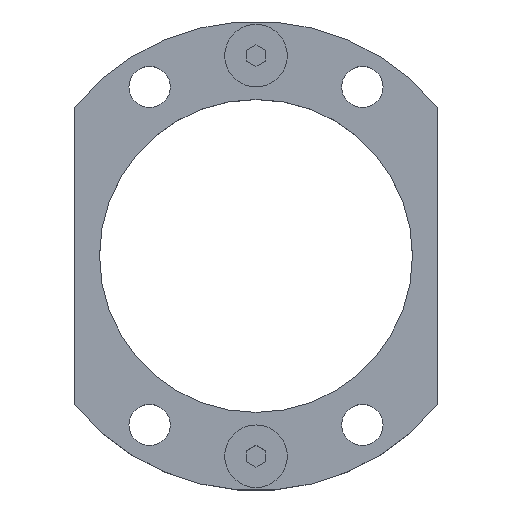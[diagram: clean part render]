
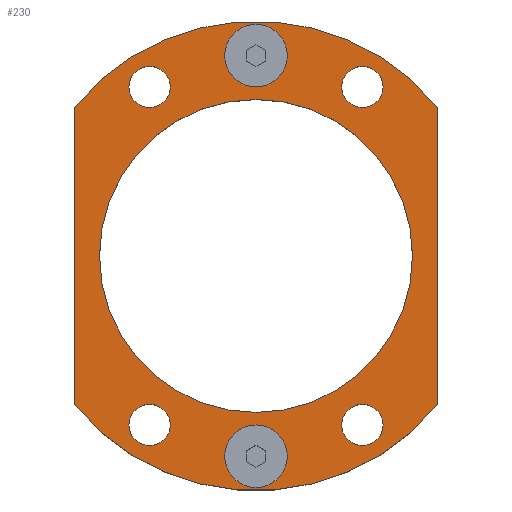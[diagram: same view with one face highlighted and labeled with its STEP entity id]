
A CAD part, top view. The second image highlights one B-rep face of the part: STEP entity #230.
In plain terms, the highlighted planar face has unit normal (0, 0, 1).
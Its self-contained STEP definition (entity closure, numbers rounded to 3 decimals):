
#143=FACE_BOUND('',#445,.T.);
#144=FACE_BOUND('',#446,.T.);
#145=FACE_BOUND('',#447,.T.);
#146=FACE_BOUND('',#448,.T.);
#147=FACE_BOUND('',#449,.T.);
#148=FACE_BOUND('',#450,.T.);
#149=FACE_BOUND('',#451,.T.);
#150=FACE_BOUND('',#452,.T.);
#164=PLANE('',#1603);
#230=ADVANCED_FACE('',(#143,#144,#145,#146,#147,#148,#149,#150),#164,.T.);
#445=EDGE_LOOP('',(#809,#810,#811,#812));
#446=EDGE_LOOP('',(#813,#814));
#447=EDGE_LOOP('',(#815,#816));
#448=EDGE_LOOP('',(#817,#818));
#449=EDGE_LOOP('',(#819,#820));
#450=EDGE_LOOP('',(#821,#822));
#451=EDGE_LOOP('',(#823,#824));
#452=EDGE_LOOP('',(#825,#826));
#524=CIRCLE('',#1540,37.5);
#526=CIRCLE('',#1544,37.5);
#528=CIRCLE('',#1548,3.3);
#530=CIRCLE('',#1551,3.3);
#532=CIRCLE('',#1554,3.3);
#534=CIRCLE('',#1557,3.3);
#536=CIRCLE('',#1560,3.3);
#538=CIRCLE('',#1563,3.3);
#540=CIRCLE('',#1566,3.3);
#542=CIRCLE('',#1569,3.3);
#547=CIRCLE('',#1577,5.);
#548=CIRCLE('',#1579,5.);
#550=CIRCLE('',#1582,25.);
#552=CIRCLE('',#1585,25.);
#561=CIRCLE('',#1601,5.);
#562=CIRCLE('',#1602,5.);
#809=ORIENTED_EDGE('',*,*,#1149,.T.);
#810=ORIENTED_EDGE('',*,*,#1158,.T.);
#811=ORIENTED_EDGE('',*,*,#1155,.T.);
#812=ORIENTED_EDGE('',*,*,#1152,.T.);
#813=ORIENTED_EDGE('',*,*,#1211,.F.);
#814=ORIENTED_EDGE('',*,*,#1212,.F.);
#815=ORIENTED_EDGE('',*,*,#1192,.F.);
#816=ORIENTED_EDGE('',*,*,#1190,.F.);
#817=ORIENTED_EDGE('',*,*,#1161,.T.);
#818=ORIENTED_EDGE('',*,*,#1164,.T.);
#819=ORIENTED_EDGE('',*,*,#1167,.T.);
#820=ORIENTED_EDGE('',*,*,#1170,.T.);
#821=ORIENTED_EDGE('',*,*,#1173,.T.);
#822=ORIENTED_EDGE('',*,*,#1176,.T.);
#823=ORIENTED_EDGE('',*,*,#1179,.T.);
#824=ORIENTED_EDGE('',*,*,#1182,.T.);
#825=ORIENTED_EDGE('',*,*,#1195,.T.);
#826=ORIENTED_EDGE('',*,*,#1198,.T.);
#1005=VERTEX_POINT('',#2226);
#1006=VERTEX_POINT('',#2228);
#1008=VERTEX_POINT('',#2234);
#1010=VERTEX_POINT('',#2240);
#1013=VERTEX_POINT('',#2250);
#1014=VERTEX_POINT('',#2252);
#1017=VERTEX_POINT('',#2262);
#1018=VERTEX_POINT('',#2264);
#1021=VERTEX_POINT('',#2274);
#1022=VERTEX_POINT('',#2276);
#1025=VERTEX_POINT('',#2286);
#1026=VERTEX_POINT('',#2288);
#1031=VERTEX_POINT('',#2307);
#1032=VERTEX_POINT('',#2309);
#1035=VERTEX_POINT('',#2318);
#1036=VERTEX_POINT('',#2320);
#1045=VERTEX_POINT('',#2353);
#1046=VERTEX_POINT('',#2354);
#1149=EDGE_CURVE('',#1006,#1005,#524,.T.);
#1152=EDGE_CURVE('',#1008,#1006,#1306,.T.);
#1155=EDGE_CURVE('',#1010,#1008,#526,.T.);
#1158=EDGE_CURVE('',#1005,#1010,#1310,.T.);
#1161=EDGE_CURVE('',#1014,#1013,#528,.T.);
#1164=EDGE_CURVE('',#1013,#1014,#530,.T.);
#1167=EDGE_CURVE('',#1018,#1017,#532,.T.);
#1170=EDGE_CURVE('',#1017,#1018,#534,.T.);
#1173=EDGE_CURVE('',#1022,#1021,#536,.T.);
#1176=EDGE_CURVE('',#1021,#1022,#538,.T.);
#1179=EDGE_CURVE('',#1026,#1025,#540,.T.);
#1182=EDGE_CURVE('',#1025,#1026,#542,.T.);
#1190=EDGE_CURVE('',#1031,#1032,#547,.T.);
#1192=EDGE_CURVE('',#1032,#1031,#548,.T.);
#1195=EDGE_CURVE('',#1036,#1035,#550,.T.);
#1198=EDGE_CURVE('',#1035,#1036,#552,.T.);
#1211=EDGE_CURVE('',#1045,#1046,#561,.T.);
#1212=EDGE_CURVE('',#1046,#1045,#562,.T.);
#1306=LINE('',#2233,#1406);
#1310=LINE('',#2244,#1410);
#1406=VECTOR('',#1805,1.);
#1410=VECTOR('',#1817,1.);
#1540=AXIS2_PLACEMENT_3D('',#2227,#1799,#1800);
#1544=AXIS2_PLACEMENT_3D('',#2239,#1811,#1812);
#1548=AXIS2_PLACEMENT_3D('',#2251,#1823,#1824);
#1551=AXIS2_PLACEMENT_3D('',#2256,#1830,#1831);
#1554=AXIS2_PLACEMENT_3D('',#2263,#1837,#1838);
#1557=AXIS2_PLACEMENT_3D('',#2268,#1844,#1845);
#1560=AXIS2_PLACEMENT_3D('',#2275,#1851,#1852);
#1563=AXIS2_PLACEMENT_3D('',#2280,#1858,#1859);
#1566=AXIS2_PLACEMENT_3D('',#2287,#1865,#1866);
#1569=AXIS2_PLACEMENT_3D('',#2292,#1872,#1873);
#1577=AXIS2_PLACEMENT_3D('',#2308,#1891,#1892);
#1579=AXIS2_PLACEMENT_3D('',#2312,#1896,#1897);
#1582=AXIS2_PLACEMENT_3D('',#2319,#1903,#1904);
#1585=AXIS2_PLACEMENT_3D('',#2324,#1910,#1911);
#1601=AXIS2_PLACEMENT_3D('',#2352,#1946,#1947);
#1602=AXIS2_PLACEMENT_3D('',#2355,#1948,#1949);
#1603=AXIS2_PLACEMENT_3D('',#2356,#1950,#1951);
#1799=DIRECTION('',(0.,0.,1.));
#1800=DIRECTION('',(0.776,0.631,0.));
#1805=DIRECTION('',(0.,1.,0.));
#1811=DIRECTION('',(0.,0.,1.));
#1812=DIRECTION('',(-0.776,-0.631,0.));
#1817=DIRECTION('',(0.,-1.,0.));
#1823=DIRECTION('',(0.,0.,-1.));
#1824=DIRECTION('',(-1.,0.,0.));
#1830=DIRECTION('',(0.,0.,-1.));
#1831=DIRECTION('',(1.,0.,0.));
#1837=DIRECTION('',(0.,0.,-1.));
#1838=DIRECTION('',(-1.,0.,0.));
#1844=DIRECTION('',(0.,0.,-1.));
#1845=DIRECTION('',(1.,0.,0.));
#1851=DIRECTION('',(0.,0.,-1.));
#1852=DIRECTION('',(-1.,0.,0.));
#1858=DIRECTION('',(0.,0.,-1.));
#1859=DIRECTION('',(1.,0.,0.));
#1865=DIRECTION('',(0.,0.,-1.));
#1866=DIRECTION('',(-1.,0.,0.));
#1872=DIRECTION('',(0.,0.,-1.));
#1873=DIRECTION('',(1.,0.,0.));
#1891=DIRECTION('',(0.,0.,1.));
#1892=DIRECTION('',(1.,0.,0.));
#1896=DIRECTION('',(0.,0.,1.));
#1897=DIRECTION('',(-1.,0.,0.));
#1903=DIRECTION('',(0.,0.,-1.));
#1904=DIRECTION('',(-1.,0.,0.));
#1910=DIRECTION('',(0.,0.,-1.));
#1911=DIRECTION('',(1.,0.,0.));
#1946=DIRECTION('',(0.,0.,1.));
#1947=DIRECTION('',(-1.,0.,0.));
#1948=DIRECTION('',(0.,0.,1.));
#1949=DIRECTION('',(1.,0.,0.));
#1950=DIRECTION('',(0.,0.,1.));
#1951=DIRECTION('',(0.634,-0.773,0.));
#2226=CARTESIAN_POINT('',(-29.,23.775,11.));
#2227=CARTESIAN_POINT('',(0.,0.,11.));
#2228=CARTESIAN_POINT('',(29.,23.775,11.));
#2233=CARTESIAN_POINT('',(29.,23.775,11.));
#2234=CARTESIAN_POINT('',(29.,-23.775,11.));
#2239=CARTESIAN_POINT('',(0.,0.,11.));
#2240=CARTESIAN_POINT('',(-29.,-23.775,11.));
#2244=CARTESIAN_POINT('',(-29.,23.775,11.));
#2250=CARTESIAN_POINT('',(17.,23.7,11.));
#2251=CARTESIAN_POINT('',(17.,27.,11.));
#2252=CARTESIAN_POINT('',(17.,30.3,11.));
#2256=CARTESIAN_POINT('',(17.,27.,11.));
#2262=CARTESIAN_POINT('',(-17.,23.7,11.));
#2263=CARTESIAN_POINT('',(-17.,27.,11.));
#2264=CARTESIAN_POINT('',(-17.,30.3,11.));
#2268=CARTESIAN_POINT('',(-17.,27.,11.));
#2274=CARTESIAN_POINT('',(17.,-30.3,11.));
#2275=CARTESIAN_POINT('',(17.,-27.,11.));
#2276=CARTESIAN_POINT('',(17.,-23.7,11.));
#2280=CARTESIAN_POINT('',(17.,-27.,11.));
#2286=CARTESIAN_POINT('',(-17.,-30.3,11.));
#2287=CARTESIAN_POINT('',(-17.,-27.,11.));
#2288=CARTESIAN_POINT('',(-17.,-23.7,11.));
#2292=CARTESIAN_POINT('',(-17.,-27.,11.));
#2307=CARTESIAN_POINT('',(0.,-27.,11.));
#2308=CARTESIAN_POINT('',(0.,-32.,11.));
#2309=CARTESIAN_POINT('',(0.,-37.,11.));
#2312=CARTESIAN_POINT('',(0.,-32.,11.));
#2318=CARTESIAN_POINT('',(0.,-25.,11.));
#2319=CARTESIAN_POINT('',(0.,0.,11.));
#2320=CARTESIAN_POINT('',(0.,25.,11.));
#2324=CARTESIAN_POINT('',(0.,0.,11.));
#2352=CARTESIAN_POINT('',(0.,32.,11.));
#2353=CARTESIAN_POINT('',(0.,27.,11.));
#2354=CARTESIAN_POINT('',(0.,37.,11.));
#2355=CARTESIAN_POINT('',(0.,32.,11.));
#2356=CARTESIAN_POINT('',(29.,23.775,11.));
